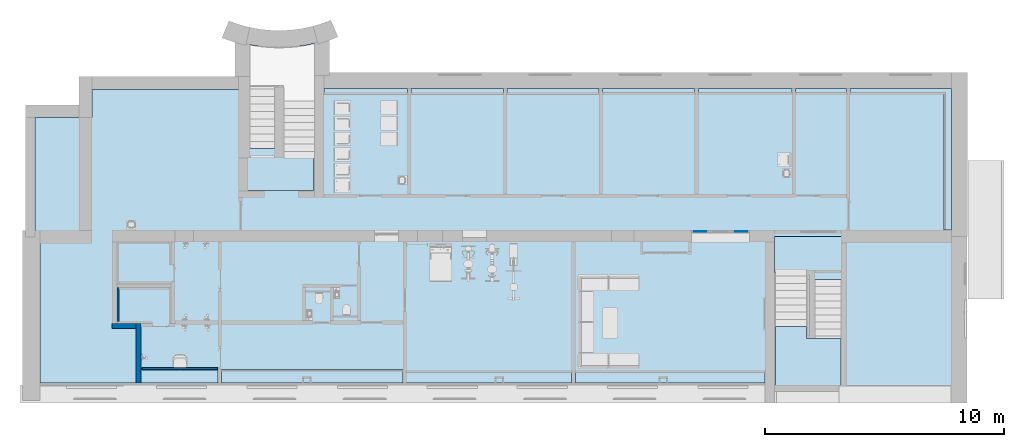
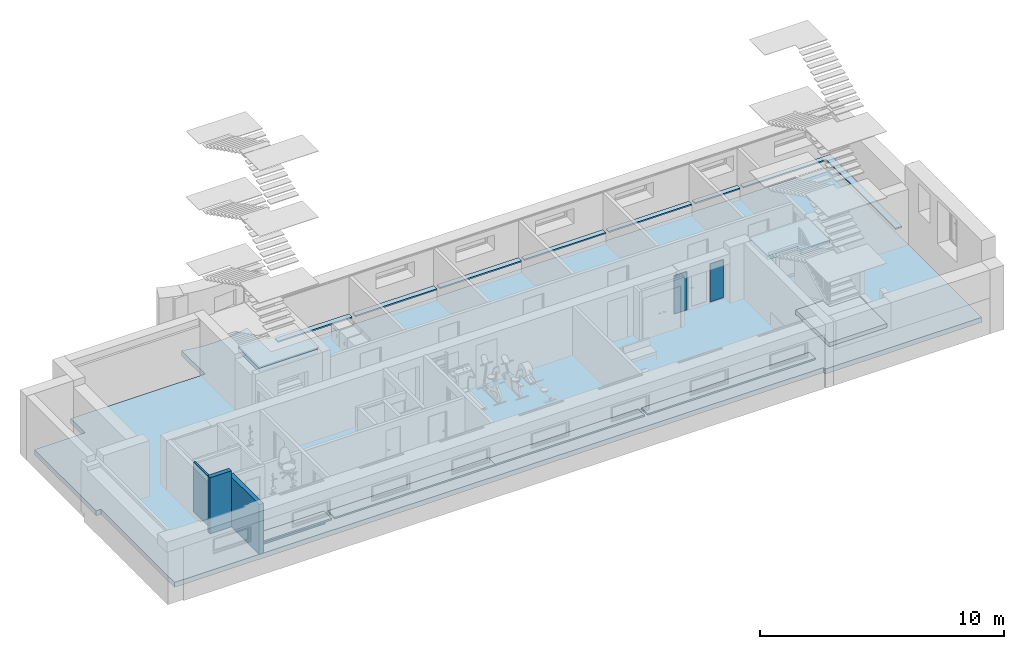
# One storey, part 2 of 23: 15 slabs, 4 walls, 1 plate, 4 elements without a shape of their own.
"""IFC2X3 building model written with IfcOpenShell, lengths in millimetres."""

from ifc_helpers import new_model, entity, si_unit, converted_unit, derived_unit, direction, frame, frame_2d, origin, origin_2d_with_axis, place, context, subcontext, project, spatial, polyline, circle_curve, parameter, trimmed, segment, composite_curve, rectangle, outline, extrude, faceted_brep, source, transform, mapped, material, layer, layer_set, layer_usage, type_object, type_shapes, element, aggregate, save


model = new_model("IFC2X3")

# Units and contexts
model_context = context("Model", 3, precision=0.01, world=origin(), true_north=direction((6.12303176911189e-17, 1.0)))
body_context = subcontext(model_context, "Body", "Model", "MODEL_VIEW")
ifc_project = project(units=[si_unit("LENGTHUNIT", "METRE", prefix="MILLI"), si_unit("AREAUNIT", "SQUARE_METRE"), si_unit("VOLUMEUNIT", "CUBIC_METRE"), converted_unit("PLANEANGLEUNIT", "DEGREE", entity("IfcRatioMeasure", 0.0174532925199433), si_unit("PLANEANGLEUNIT", "RADIAN"), dimensions=[0, 0, 0, 0, 0, 0, 0]), si_unit("MASSUNIT", "GRAM", prefix="KILO"), derived_unit("MASSDENSITYUNIT", [(si_unit("MASSUNIT", "GRAM", prefix="KILO"), 1), (si_unit("LENGTHUNIT", "METRE"), -3)]), si_unit("TIMEUNIT", "SECOND"), si_unit("FREQUENCYUNIT", "HERTZ"), si_unit("THERMODYNAMICTEMPERATUREUNIT", "DEGREE_CELSIUS"), derived_unit("THERMALTRANSMITTANCEUNIT", [(si_unit("MASSUNIT", "GRAM", prefix="KILO"), 1), (si_unit("THERMODYNAMICTEMPERATUREUNIT", "KELVIN"), -1), (si_unit("TIMEUNIT", "SECOND"), -3)]), derived_unit("VOLUMETRICFLOWRATEUNIT", [(si_unit("LENGTHUNIT", "METRE"), 3), (si_unit("TIMEUNIT", "SECOND"), -1)]), si_unit("ELECTRICCURRENTUNIT", "AMPERE"), si_unit("ELECTRICVOLTAGEUNIT", "VOLT"), si_unit("POWERUNIT", "WATT"), si_unit("FORCEUNIT", "NEWTON", prefix="KILO"), si_unit("ILLUMINANCEUNIT", "LUX"), si_unit("LUMINOUSFLUXUNIT", "LUMEN"), si_unit("LUMINOUSINTENSITYUNIT", "CANDELA"), derived_unit("USERDEFINED", [(si_unit("MASSUNIT", "GRAM", prefix="KILO"), -1), (si_unit("LENGTHUNIT", "METRE"), -2), (si_unit("TIMEUNIT", "SECOND"), 3), (si_unit("LUMINOUSFLUXUNIT", "LUMEN"), 1)]), derived_unit("LINEARVELOCITYUNIT", [(si_unit("LENGTHUNIT", "METRE"), 1), (si_unit("TIMEUNIT", "SECOND"), -1)]), si_unit("PRESSUREUNIT", "PASCAL"), derived_unit("USERDEFINED", [(si_unit("LENGTHUNIT", "METRE"), -2), (si_unit("MASSUNIT", "GRAM", prefix="KILO"), 1), (si_unit("TIMEUNIT", "SECOND"), -2)]), derived_unit("LINEARFORCEUNIT", [(si_unit("MASSUNIT", "GRAM", prefix="KILO"), 1), (si_unit("LENGTHUNIT", "METRE"), 1), (si_unit("TIMEUNIT", "SECOND"), -2), (si_unit("LENGTHUNIT", "METRE"), -1)]), derived_unit("PLANARFORCEUNIT", [(si_unit("MASSUNIT", "GRAM", prefix="KILO"), 1), (si_unit("LENGTHUNIT", "METRE"), 1), (si_unit("TIMEUNIT", "SECOND"), -2), (si_unit("LENGTHUNIT", "METRE"), -2)])], contexts=[model_context])

# Site, building, storey
site_placement = place(None, origin())
site = spatial("IfcSite", under=ifc_project, at=site_placement, Name="Default", CompositionType="ELEMENT")
building_placement = place(site_placement, origin())
building = spatial("IfcBuilding", under=site, at=building_placement, Name="SMA ARH", CompositionType="ELEMENT")
storey_placement = place(building_placement, frame((0.0, 0.0, -2800.0)))
storey = spatial("IfcBuildingStorey", under=building, at=storey_placement, Name="0 Sokkel", CompositionType="ELEMENT", Elevation=-2800.0)

# Stair, slab
stair_1_placement = place(storey_placement, origin())
stair_1 = element("IfcStair", 1, at=stair_1_placement, inside=storey, Name="Cast-In-Place Stair:Stair", ObjectType="Cast-In-Place Stair:Cast-In-Place Stair", ShapeType="STRAIGHT_RUN_STAIR")
slab_type_1 = type_object("IfcSlabType", Name="Monolithic Landing:300 mm Thickness", PredefinedType="LANDING")
slab_1_placement = place(stair_1_placement, frame((30875.0, -230.0, 0.0)))
slab_1 = element("IfcSlab", 2, at=slab_1_placement, type_object=slab_type_1, Name="Cast-In-Place Stair:Stair:911102 Landing 1", ObjectType="Monolithic Landing:300 mm Thickness", PredefinedType="LANDING", context=body_context, shape_type="Brep", body=[
    faceted_brep([(1300.0, 2720.0, 1440.0), (0.0, 2720.0, 1440.0), (0.0, 2588.47276677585, 1440.0), (0.0, 0.0, 1440.0), (2740.0, 0.0, 1440.0), (2740.0, 2220.0, 1440.0), (1300.0, 2220.0, 1440.0), (1300.0, 2588.47276677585, 1440.0), (2740.0, 0.0, 1240.0), (2740.0, 2220.0, 1240.0), (1300.0, 2220.0, 1240.0), (1300.0, 2720.0, 1171.80069388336), (1300.0, 2720.0, 1284.44444444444), (1300.0, 2588.47276677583, 1240.0), (0.0, 2720.0, 1284.44444444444), (0.0, 2720.0, 1171.80069388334), (0.0, 2588.4727667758, 1240.0), (0.0, 0.0, 1240.0)], [[[0, 1, 2, 3, 4, 5, 6, 7]], [[5, 4, 8, 9]], [[6, 5, 9, 10]], [[11, 12, 0, 7, 6, 10, 13]], [[1, 14, 15, 16, 17, 3, 2]], [[4, 3, 17, 8]], [[16, 13, 10, 9, 8, 17]], [[1, 0, 12, 11, 15, 14]], [[13, 16, 15, 11]]]),
])
aggregate(stair_1, [slab_1])

stair_2_placement = place(storey_placement, origin())
stair_2 = element("IfcStair", 3, at=stair_2_placement, inside=storey, Name="Cast-In-Place Stair:Stair", ObjectType="Cast-In-Place Stair:Cast-In-Place Stair", ShapeType="STRAIGHT_RUN_STAIR")
slab_type_2 = type_object("IfcSlabType", Name="Monolithic Landing:300 mm Thickness", PredefinedType="LANDING")
slab_2_placement = place(stair_2_placement, frame((8790.0, 8180.0, 0.0)))
slab_2 = element("IfcSlab", 4, at=slab_2_placement, type_object=slab_type_2, Name="Cast-In-Place Stair:Stair:911166 Landing 1", ObjectType="Monolithic Landing:300 mm Thickness", PredefinedType="LANDING", context=body_context, shape_type="Brep", body=[
    faceted_brep([(1373.14624174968, 1738.08008261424, 2800.0), (30.0, 1738.08008261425, 2800.0), (0.0, 1738.08008261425, 2800.0), (0.0, 0.0, 2800.0), (2785.0, 0.0, 2800.0), (2785.0, 1655.0, 2800.0), (1405.73906378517, 1655.0, 2800.0), (1373.14624174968, 1655.0, 2800.0), (0.0, 0.0, 2600.0), (2785.0, 0.0, 2600.0), (2785.0, 1655.0, 2600.0), (1405.73906378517, 1655.0, 2600.0), (1405.73906378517, 1655.0, 2577.01404483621), (1373.14624174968, 1655.0, 2577.01404483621), (1373.14624174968, 1738.08008261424, 2536.54481348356), (0.0, 1738.08008261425, 2600.0), (30.0, 1607.81167963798, 2600.0), (1373.14624174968, 1607.81167963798, 2600.0), (1405.73906378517, 1607.81167963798, 2600.0), (30.0, 1738.08008261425, 2600.0), (30.0, 1738.08008261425, 2536.54481348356)], [[[0, 1, 2, 3, 4, 5, 6, 7]], [[4, 3, 8, 9]], [[5, 4, 9, 10]], [[6, 5, 10, 11, 12, 13, 7]], [[0, 7, 13, 14]], [[3, 2, 15, 8]], [[16, 17, 18, 11, 10, 9, 8, 15, 19]], [[1, 0, 14, 20, 19]], [[17, 16, 20, 14, 13, 12, 18]], [[16, 19, 20]], [[11, 18, 12]], [[2, 1, 19, 15]]]),
])
aggregate(stair_2, [slab_2])

stair_3_placement = place(storey_placement, origin())
stair_3 = element("IfcStair", 5, at=stair_3_placement, inside=storey, Name="Cast-In-Place Stair:Stair", ObjectType="Cast-In-Place Stair:Cast-In-Place Stair", ShapeType="STRAIGHT_RUN_STAIR")
slab_type_3 = type_object("IfcSlabType", Name="Monolithic Landing:300 mm Thickness", PredefinedType="LANDING")
slab_3_placement = place(stair_3_placement, frame((30830.0, 4445.0, 0.0)))
slab_3 = element("IfcSlab", 6, at=slab_3_placement, type_object=slab_type_3, Name="Cast-In-Place Stair:Stair:914901 Landing 1", ObjectType="Monolithic Landing:300 mm Thickness", PredefinedType="LANDING", context=body_context, shape_type="Brep", body=[
    faceted_brep([(1424.26093621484, 0.0, 2770.0), (2800.0, 0.0, 2770.0), (2800.0, 122.297076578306, 2770.0), (2800.0, 1795.0, 2770.0), (0.0, 1795.0, 2770.0), (0.0, 300.0, 2770.0), (1424.26093621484, 300.0, 2770.0), (1424.26093621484, 122.297076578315, 2770.0), (2800.0, 1795.0, 2570.0), (0.0, 1795.0, 2570.0), (0.0, 300.0, 2570.0), (1424.26093621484, 300.0, 2570.0), (1424.26093621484, 0.0, 2507.81504580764), (1424.26093621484, 0.0, 2620.0), (1424.26093621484, 122.297076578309, 2570.0), (2800.0, 0.0, 2620.0), (2800.0, 0.0, 2507.81504580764), (2800.0, 122.297076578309, 2570.0)], [[[0, 1, 2, 3, 4, 5, 6, 7]], [[4, 3, 8, 9]], [[5, 4, 9, 10]], [[6, 5, 10, 11]], [[12, 13, 0, 7, 6, 11, 14]], [[1, 15, 16, 17, 8, 3, 2]], [[17, 14, 11, 10, 9, 8]], [[1, 0, 13, 12, 16, 15]], [[14, 17, 16, 12]]]),
])
aggregate(stair_3, [slab_3])

# Curtain wall, plate
curtain_wall_type = type_object("IfcCurtainWallType", Name="Curtain Wall:Curtain Wall SKF-04", PredefinedType="NOTDEFINED")
curtain_wall_placement = place(storey_placement, frame((0.0, 0.0, 2800.0)))
curtain_wall = element("IfcCurtainWall", 7, at=curtain_wall_placement, inside=storey, type_object=curtain_wall_type, Name="Curtain Wall:Curtain Wall SKF-04", ObjectType="Curtain Wall:Curtain Wall SKF-04")
plate_type = type_object("IfcPlateType", Name="System Panel:Glazed", PredefinedType="CURTAIN_PANEL")
shared_shape = source(origin(), body_context, "Body", "SweptSolid", [
    extrude(rectangle(XDim=28.0, YDim=614.524249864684, at=origin_2d_with_axis()), frame((-857.5, -14.0, 0.0), z_axis=(0.0, 0.0, 1.0), x_axis=(0.0, 1.0, 0.0)), (0.0, 0.0, 1.0), 1900.0),
    extrude(rectangle(XDim=28.0, YDim=614.999999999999, at=origin_2d_with_axis()), frame((857.262124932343, -14.0, 0.0), z_axis=(0.0, 0.0, 1.0), x_axis=(0.0, 1.0, 0.0)), (0.0, 0.0, 1.0), 1900.0),
])
type_shapes(plate_type, [shared_shape])
plate_placement = place(curtain_wall_placement, frame((28574.7621249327, 6470.0, -2750.0)))
plate = element("IfcPlate", 8, at=plate_placement, type_object=plate_type, Name="System Panel:Glazed", ObjectType="System Panel:Glazed", context=body_context, shape_type="MappedRepresentation", body=[
    mapped(shared_shape, transform((0.0, 0.0, 0.0), scale=1.0)),
])
aggregate(curtain_wall, [plate])

# Slabs
ifc_material_1 = material(Name="EST. Ehitusplaat. OSB")
ifc_layer_1 = layer(ifc_material_1, 20.0)
ifc_material_2 = material(Name="EST. Õhkvahe. Roov. Kipsplaadi alusroov. Vertikaalne")
ifc_layer_2 = layer(ifc_material_2, 50.0)
ifc_layer_set_1 = layer_set([ifc_layer_1, ifc_layer_2], Name="Floor:VL-00_karkass 50 pluss plaat")
ifc_layer_usage_1 = layer_usage(ifc_layer_set_1, "AXIS3", "POSITIVE", 0.0)
slab_type_4 = type_object("IfcSlabType", Name="Floor:VL-00_karkass 50 pluss plaat", PredefinedType="FLOOR", material=ifc_layer_set_1)
slab_4_placement = place(storey_placement, origin())
element("IfcSlab", 9, at=slab_4_placement, inside=storey, type_object=slab_type_4, material=ifc_layer_usage_1, Name="Floor:VL-00_karkass 50 pluss plaat", ObjectType="Floor:VL-00_karkass 50 pluss plaat", PredefinedType="FLOOR", context=body_context, shape_type="SweptSolid", body=[
    extrude(rectangle(XDim=500.00000000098, YDim=7060.00000000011, at=frame_2d((8.32756086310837e-12, -1.29602995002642e-11), x_axis=(1.0, 0.0))), frame((18830.0, 385.0, 600.0), z_axis=(0.0, 0.0, -1.0), x_axis=(0.0, 1.0, 0.0)), (0.0, 0.0, 1.0), 70.0000000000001),
])
ifc_layer_usage_2 = layer_usage(ifc_layer_set_1, "AXIS3", "POSITIVE", 0.0)
slab_type_5 = type_object("IfcSlabType", Name="Floor:VL-00_karkass 50 pluss plaat", PredefinedType="FLOOR", material=ifc_layer_set_1)
slab_5_placement = place(storey_placement, origin())
element("IfcSlab", 10, at=slab_5_placement, inside=storey, type_object=slab_type_5, material=ifc_layer_usage_2, Name="Floor:VL-00_karkass 50 pluss plaat", ObjectType="Floor:VL-00_karkass 50 pluss plaat", PredefinedType="FLOOR", context=body_context, shape_type="SweptSolid", body=[
    extrude(rectangle(XDim=500.000000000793, YDim=7940.00000000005, at=origin_2d_with_axis()), frame((26480.0, 385.0, 600.0), z_axis=(0.0, 0.0, -1.0), x_axis=(0.0, 1.0, 0.0)), (0.0, 0.0, 1.0), 70.0000000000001),
])
ifc_layer_usage_3 = layer_usage(ifc_layer_set_1, "AXIS3", "POSITIVE", 0.0)
slab_type_6 = type_object("IfcSlabType", Name="Floor:VL-00_karkass 50 pluss plaat", PredefinedType="FLOOR", material=ifc_layer_set_1)
slab_6_placement = place(storey_placement, origin())
element("IfcSlab", 11, at=slab_6_placement, inside=storey, type_object=slab_type_6, material=ifc_layer_usage_3, Name="Floor:VL-00_karkass 50 pluss plaat", ObjectType="Floor:VL-00_karkass 50 pluss plaat", PredefinedType="FLOOR", context=body_context, shape_type="SweptSolid", body=[
    extrude(rectangle(XDim=550.000000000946, YDim=7580.02827727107, at=frame_2d((-3.30828697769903e-11, -1.13686837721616e-12), x_axis=(1.0, 0.0))), frame((11509.9858613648, 410.0, 600.0), z_axis=(0.0, 0.0, -1.0), x_axis=(0.0, 1.0, 0.0)), (0.0, 0.0, 1.0), 70.0000000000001),
])
ifc_layer_usage_4 = layer_usage(ifc_layer_set_1, "AXIS3", "POSITIVE", 0.0)
slab_type_7 = type_object("IfcSlabType", Name="Floor:VL-00_karkass 50 pluss plaat", PredefinedType="FLOOR", material=ifc_layer_set_1)
slab_7_placement = place(storey_placement, origin())
element("IfcSlab", 12, at=slab_7_placement, inside=storey, type_object=slab_type_7, material=ifc_layer_usage_4, Name="Floor:VL-00_karkass 50 pluss plaat", ObjectType="Floor:VL-00_karkass 50 pluss plaat", PredefinedType="FLOOR", context=body_context, shape_type="SweptSolid", body=[
    extrude(rectangle(XDim=620.000000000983, YDim=3219.97172272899, at=frame_2d((-7.95807864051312e-13, 0.0), x_axis=(1.0, 0.0))), frame((5959.98586136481, 445.0, 600.0), z_axis=(0.0, 0.0, -1.0), x_axis=(0.0, 1.0, 0.0)), (0.0, 0.0, 1.0), 70.0000000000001),
])
ifc_material_3 = material(Name="EST. Betoon. Armeeritud. Kohtvalu")
ifc_layer_3 = layer(ifc_material_3, 100.0)
ifc_material_4 = material(Name="EST. Soojustus. EPS. Default")
ifc_layer_4 = layer(ifc_material_4, 100.0)
ifc_layer_5 = layer(ifc_material_4, 50.0)
ifc_layer_set_2 = layer_set([ifc_layer_3, ifc_layer_4, ifc_layer_5], Name="Floor:P-01_Põrand pinnasel 400mm")
ifc_layer_usage_5 = layer_usage(ifc_layer_set_2, "AXIS3", "POSITIVE", 0.0)
slab_type_8 = type_object("IfcSlabType", Name="Floor:P-01_Põrand pinnasel 400mm", PredefinedType="FLOOR", material=ifc_layer_set_2)
slab_8_placement = place(storey_placement, origin())
element("IfcSlab", 13, at=slab_8_placement, inside=storey, type_object=slab_type_8, material=ifc_layer_usage_5, Name="Floor:P-01_Põrand pinnasel 400mm", ObjectType="Floor:P-01_Põrand pinnasel 400mm", PredefinedType="FLOOR", context=body_context, shape_type="SweptSolid", body=[
    extrude(outline(composite_curve([segment(polyline([(-1932.24541761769, -13210.7142857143), (3117.75458238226, -13210.7142857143)]), True, "CONTINUOUS"), segment(polyline([(3117.75458238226, -13210.7142857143), (3117.75458238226, -10815.7142857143)]), True, "CONTINUOUS"), segment(polyline([(3117.75458238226, -10815.7142857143), (4293.95762528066, -10815.7142857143)]), True, "CONTINUOUS"), segment(polyline([(4293.95762528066, -10815.7142857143), (4293.95762528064, -4460.71428571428)]), True, "CONTINUOUS"), segment(polyline([(4293.95762528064, -4460.71428571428), (6228.87132912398, -4460.71428571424)]), True, "CONTINUOUS"), segment(trimmed(circle_curve(frame_2d((12327.8934712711, -3005.87044682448), x_axis=(-0.972709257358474, -0.232027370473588)), 6270.13888888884), [parameter(331.08795391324)], [parameter(0.0)], True, "PARAMETER"), False, "CONTINUOUS"), segment(polyline([(6285.66759649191, -1330.71428571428), (4332.75458238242, -1330.71428571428)]), True, "CONTINUOUS"), segment(polyline([(4332.75458238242, -1330.71428571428), (4332.75458238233, 25104.2857142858)]), True, "CONTINUOUS"), segment(polyline([(4332.75458238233, 25104.2857142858), (-8102.24541761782, 25104.2857142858)]), True, "CONTINUOUS"), segment(polyline([(-8102.24541761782, 25104.2857142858), (-8102.2454176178, 17699.2857142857)]), True, "CONTINUOUS"), segment(polyline([(-8102.2454176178, 17699.2857142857), (-7967.2454176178, 17699.2857142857)]), True, "CONTINUOUS"), segment(polyline([(-7967.2454176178, 17699.2857142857), (-7967.24541761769, -12985.7142857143)]), True, "CONTINUOUS"), segment(polyline([(-7967.24541761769, -12985.7142857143), (-1932.24541761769, -12985.7142857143)]), True, "CONTINUOUS"), segment(polyline([(-1932.24541761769, -12985.7142857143), (-1932.24541761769, -13210.7142857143)]), True, "CONTINUOUS")], self_intersect=False)), frame((13130.7142857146, 8102.2454176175, 0.0), z_axis=(0.0, 0.0, -1.0), x_axis=(0.0, 1.0, 0.0)), (0.0, 0.0, 1.0), 250.0),
])
ifc_layer_usage_6 = layer_usage(ifc_layer_set_1, "AXIS3", "POSITIVE", 0.0)
slab_type_9 = type_object("IfcSlabType", Name="Floor:VL-00_karkass 50 pluss plaat", PredefinedType="FLOOR")
slab_9_placement = place(storey_placement, frame((12000.0, 6520.0, 530.0)))
element("IfcSlab", 14, at=slab_9_placement, inside=storey, type_object=slab_type_9, material=ifc_layer_usage_6, Name="Floor:VL-00_karkass 50 pluss plaat", ObjectType="Floor:VL-00_karkass 50 pluss plaat", PredefinedType="FLOOR", context=body_context, shape_type="SweptSolid", body=[
    extrude(rectangle(XDim=255.00000000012, YDim=3500.0, at=frame_2d((11367.5, 2830.0), x_axis=(0.0, -1.0))), frame((13117.5, 2957.49999999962, 70.0), z_axis=(0.0, 0.0, -1.0), x_axis=(-1.0, 0.0, 0.0)), (0.0, 0.0, 1.0), 70.0000000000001),
])
slab_type_10 = type_object("IfcSlabType", Name="Floor:VL-00_karkass 50 pluss plaat", PredefinedType="FLOOR")
slab_10_placement = place(storey_placement, frame((12000.0, 6520.0, 530.0)))
element("IfcSlab", 15, at=slab_10_placement, inside=storey, type_object=slab_type_10, material=ifc_layer_usage_6, Name="Floor:VL-00_karkass 50 pluss plaat:2", ObjectType="Floor:VL-00_karkass 50 pluss plaat", PredefinedType="FLOOR", context=body_context, shape_type="SweptSolid", body=[
    extrude(rectangle(XDim=3849.99999999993, YDim=255.000000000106, at=frame_2d((7542.50000000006, 2830.0), x_axis=(1.0, 0.0))), frame((13117.5, 2957.49999999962, 70.0), z_axis=(0.0, 0.0, -1.0), x_axis=(-1.0, 0.0, 0.0)), (0.0, 0.0, 1.0), 70.0000000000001),
])
slab_type_11 = type_object("IfcSlabType", Name="Floor:VL-00_karkass 50 pluss plaat", PredefinedType="FLOOR")
slab_11_placement = place(storey_placement, frame((12000.0, 6520.0, 530.0)))
element("IfcSlab", 16, at=slab_11_placement, inside=storey, type_object=slab_type_11, material=ifc_layer_usage_6, Name="Floor:VL-00_karkass 50 pluss plaat:3", ObjectType="Floor:VL-00_karkass 50 pluss plaat", PredefinedType="FLOOR", context=body_context, shape_type="SweptSolid", body=[
    extrude(rectangle(XDim=3850.0, YDim=255.000000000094, at=frame_2d((3542.5000000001, 2830.0), x_axis=(1.0, 0.0))), frame((13117.5, 2957.49999999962, 70.0), z_axis=(0.0, 0.0, -1.0), x_axis=(-1.0, 0.0, 0.0)), (0.0, 0.0, 1.0), 70.0000000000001),
])
slab_type_12 = type_object("IfcSlabType", Name="Floor:VL-00_karkass 50 pluss plaat", PredefinedType="FLOOR")
slab_12_placement = place(storey_placement, frame((12000.0, 6520.0, 530.0)))
element("IfcSlab", 17, at=slab_12_placement, inside=storey, type_object=slab_type_12, material=ifc_layer_usage_6, Name="Floor:VL-00_karkass 50 pluss plaat:4", ObjectType="Floor:VL-00_karkass 50 pluss plaat", PredefinedType="FLOOR", context=body_context, shape_type="SweptSolid", body=[
    extrude(rectangle(XDim=3849.99999999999, YDim=235.000000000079, at=frame_2d((-457.4999999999, 2840.0), x_axis=(1.0, 0.0))), frame((13117.5, 2957.49999999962, 70.0), z_axis=(0.0, 0.0, -1.0), x_axis=(-1.0, 0.0, 0.0)), (0.0, 0.0, 1.0), 70.0000000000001),
])
slab_type_13 = type_object("IfcSlabType", Name="Floor:VL-00_karkass 50 pluss plaat", PredefinedType="FLOOR")
slab_13_placement = place(storey_placement, frame((12000.0, 6520.0, 530.0)))
element("IfcSlab", 18, at=slab_13_placement, inside=storey, type_object=slab_type_13, material=ifc_layer_usage_6, Name="Floor:VL-00_karkass 50 pluss plaat:5", ObjectType="Floor:VL-00_karkass 50 pluss plaat", PredefinedType="FLOOR", context=body_context, shape_type="SweptSolid", body=[
    extrude(rectangle(XDim=3920.00000000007, YDim=235.000000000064, at=frame_2d((-4492.49999999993, 2840.0), x_axis=(1.0, 0.0))), frame((13117.5, 2957.49999999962, 70.0), z_axis=(0.0, 0.0, -1.0), x_axis=(-1.0, 0.0, 0.0)), (0.0, 0.0, 1.0), 70.0000000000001),
])
slab_type_14 = type_object("IfcSlabType", Name="Floor:VL-00_karkass 50 pluss plaat", PredefinedType="FLOOR")
slab_14_placement = place(storey_placement, frame((12000.0, 6520.0, 530.0)))
element("IfcSlab", 19, at=slab_14_placement, inside=storey, type_object=slab_type_14, material=ifc_layer_usage_6, Name="Floor:VL-00_karkass 50 pluss plaat:6", ObjectType="Floor:VL-00_karkass 50 pluss plaat", PredefinedType="FLOOR", context=body_context, shape_type="SweptSolid", body=[
    extrude(rectangle(XDim=2130.0, YDim=235.000000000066, at=frame_2d((-7667.49999999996, 2840.0), x_axis=(1.0, 0.0))), frame((13117.5, 2957.49999999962, 70.0), z_axis=(0.0, 0.0, -1.0), x_axis=(-1.0, 0.0, 0.0)), (0.0, 0.0, 1.0), 70.0000000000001),
])
slab_type_15 = type_object("IfcSlabType", Name="Floor:VL-00_karkass 50 pluss plaat", PredefinedType="FLOOR", material=ifc_layer_set_1)
slab_15_placement = place(storey_placement, frame((12000.0, 6520.0, 530.0)))
element("IfcSlab", 20, at=slab_15_placement, inside=storey, type_object=slab_type_15, material=ifc_layer_usage_6, Name="Floor:VL-00_karkass 50 pluss plaat:7", ObjectType="Floor:VL-00_karkass 50 pluss plaat", PredefinedType="FLOOR", context=body_context, shape_type="SweptSolid", body=[
    extrude(outline(polyline([(-12810.0, 2722.49999999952), (-8882.49999999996, 2722.49999999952), (-8882.49999999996, 2957.49999999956), (-13117.5, 2957.49999999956), (-13117.5, -2957.49999999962), (-12810.0, -2957.49999999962), (-12810.0, 2722.49999999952)])), frame((13117.5, 2957.49999999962, 70.0), z_axis=(0.0, 0.0, -1.0), x_axis=(-1.0, 0.0, 0.0)), (0.0, 0.0, 1.0), 70.0000000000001),
])

# Walls
ifc_material_5 = material(Name="_ol.olev sein")
ifc_layer_6 = layer(ifc_material_5, 200.0)
ifc_layer_set_3 = layer_set([ifc_layer_6], Name="Basic Wall:Generic - 200mm")
ifc_layer_usage_7 = layer_usage(ifc_layer_set_3, "AXIS2", "NEGATIVE", 100.0)
wall_type_1 = type_object("IfcWallType", Name="Basic Wall:Generic - 200mm", PredefinedType="STANDARD", material=ifc_layer_set_3)
wall_1_placement = place(storey_placement, frame((4250.0, 135.0, 0.0), z_axis=(0.0, 0.0, 1.0), x_axis=(0.0, 1.0, 0.0)))
element("IfcWallStandardCase", 21, at=wall_1_placement, inside=storey, type_object=wall_type_1, material=ifc_layer_usage_7, Name="Basic Wall:Generic - 200mm", ObjectType="Basic Wall:Generic - 200mm", context=body_context, shape_type="SweptSolid", body=[
    extrude(rectangle(XDim=2479.99999999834, YDim=200.0, at=frame_2d((1239.99999999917, 7.105427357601e-14), x_axis=(-1.0, 0.0))), origin(), (0.0, 0.0, 1.0), 2490.0),
])
ifc_layer_usage_8 = layer_usage(ifc_layer_set_3, "AXIS2", "NEGATIVE", 100.0)
wall_2_placement = place(storey_placement, frame((4150.0, 2515.0, 0.0), z_axis=(0.0, 0.0, 1.0), x_axis=(-1.0, 0.0, 0.0)))
element("IfcWallStandardCase", 22, at=wall_2_placement, inside=storey, type_object=wall_type_1, material=ifc_layer_usage_8, Name="Basic Wall:Generic - 200mm", ObjectType="Basic Wall:Generic - 200mm", context=body_context, shape_type="SweptSolid", body=[
    extrude(rectangle(XDim=1000.00000000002, YDim=200.0, at=frame_2d((500.000000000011, -6.3948846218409e-14), x_axis=(-1.0, 0.0))), origin(), (0.0, 0.0, 1.0), 2800.0),
])
ifc_material_6 = material(Name="EST. Fassaadikate. Laudis. Vertikaalne. Default")
ifc_layer_7 = layer(ifc_material_6, 15.0)
ifc_material_7 = material(Name="EST. Õhkvahe. Roov. Fassaadikatte alusroov. Vertikaalne")
ifc_layer_8 = layer(ifc_material_7, 25.0)
ifc_material_8 = material(Name="EST. Soojustus. Mineraalvill. Default")
ifc_layer_9 = layer(ifc_material_8, 50.0)
ifc_layer_set_4 = layer_set([ifc_layer_7, ifc_layer_8, ifc_layer_9], Name="Basic Wall:SS-00_Sauna sein")
ifc_layer_usage_9 = layer_usage(ifc_layer_set_4, "AXIS2", "NEGATIVE", 45.0)
wall_type_2 = type_object("IfcWallType", Name="Basic Wall:SS-00_Sauna sein", PredefinedType="STANDARD", material=ifc_layer_set_4)
wall_3_placement = place(storey_placement, frame((3395.0, 4120.0, 0.0), z_axis=(0.0, 0.0, 1.0), x_axis=(0.0, -1.0, 0.0)))
element("IfcWallStandardCase", 23, at=wall_3_placement, inside=storey, type_object=wall_type_2, material=ifc_layer_usage_9, Name="Basic Wall:SS-00_Sauna sein", ObjectType="Basic Wall:SS-00_Sauna sein", context=body_context, shape_type="SweptSolid", body=[
    extrude(rectangle(XDim=1415.00000000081, YDim=90.0000000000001, at=frame_2d((707.500000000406, -1.56319401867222e-13), x_axis=(-1.0, 0.0))), origin(), (0.0, 0.0, 1.0), 2490.0),
])
ifc_material_9 = material(Name="EST. Ehitusplaat. Kipsplaat")
ifc_layer_10 = layer(ifc_material_9, 12.5)
ifc_layer_11 = layer(ifc_material_9, 12.5)
ifc_layer_12 = layer(ifc_material_2, 50.0)
ifc_layer_set_5 = layer_set([ifc_layer_10, ifc_layer_11, ifc_layer_12], Name="Basic Wall:SS-00_Kips, 50mm metallkarkass ühe poolne")
ifc_layer_usage_10 = layer_usage(ifc_layer_set_5, "AXIS2", "POSITIVE", -37.5)
wall_type_3 = type_object("IfcWallType", Name="Basic Wall:SS-00_Kips, 50mm metallkarkass ühe poolne", PredefinedType="STANDARD", material=ifc_layer_set_5)
wall_4_placement = place(storey_placement, frame((7569.97172272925, 717.500000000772, 0.0), z_axis=(0.0, 0.0, 1.0), x_axis=(-1.0, 0.0, 0.0)))
element("IfcWallStandardCase", 24, at=wall_4_placement, inside=storey, type_object=wall_type_3, material=ifc_layer_usage_10, Name="Basic Wall:SS-00_Kips, 50mm metallkarkass ühe poolne", ObjectType="Basic Wall:SS-00_Kips, 50mm metallkarkass ühe poolne", context=body_context, shape_type="SweptSolid", body=[
    extrude(rectangle(XDim=3167.33414267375, YDim=75.0, at=frame_2d((1583.66707133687, 2.48689957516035e-14), x_axis=(-1.0, 0.0))), origin(), (0.0, 0.0, 1.0), 590.0),
])

save(model, "model.ifc")
